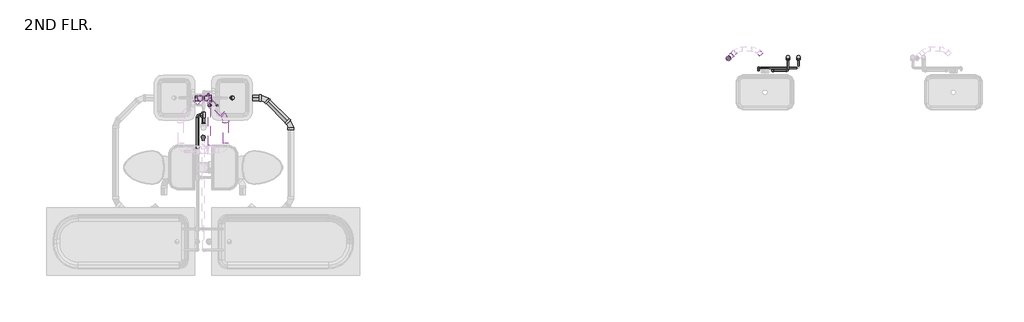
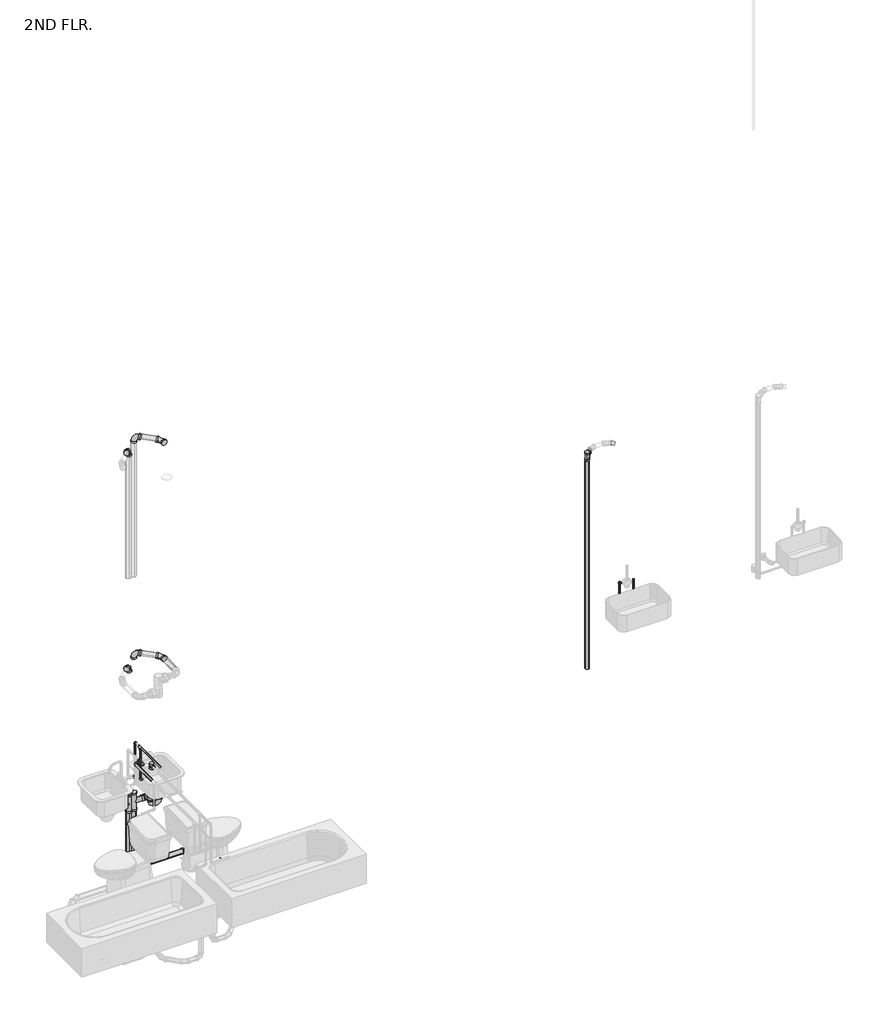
# One storey, part 8 of 15: 31 pipe fittings, 30 pipe segments.
"""IFC4 building model written with IfcOpenShell, lengths in millimetres."""

from ifc_helpers import new_model, si_unit, point, frame, frame_2d, origin, place, context, project, spatial, circle_curve, trimmed, segment, composite_curve, outline, extrude, transform, mapped, element, save
from components import bend_pvc_sch_40_dwv_standard_f2f5988a, bend_pvc_sch_40_dwv_standard_1eaeee76, bend_pvc_sch_40_dwv_standard_49f8c181, ges_wye_45_deg_reducing_pvc_sch_40_dwv_standard_31e91cc2, ges_wye_45_deg_reducing_pvc_sch_40_dwv_standard_a2c526eb, pipe_elbow_copper_k_aad62f2d, pipe_elbow_copper_k_a25a5501, pipe_elbow_copper_k_69a8f9be, pipe_tee_copper_k_7127fd44, pipe_tee_copper_k_ee363fbf, pipe_tee_copper_k_feafe2f1, pipe_tee_copper_k_60c871d1, pipe_transition_copper_k_859ff352, pipe_transition_copper_k_b4f16853, pipe_transition_copper_k_5cd7eb3f, pipe_transition_copper_k_4b29cc47, standard_73d07651, tee_sanitary_pvc_sch_40_dwv_standard_be04015c

model = new_model("IFC4")

# Units and contexts
model_context = context("Model", 3, world=origin())
ifc_project = project(units=[si_unit("LENGTHUNIT", "METRE", prefix="MILLI")], contexts=[model_context])

# Site, building, storey
site = spatial("IfcSite", under=ifc_project)
building = spatial("IfcBuilding", under=site)
storey = spatial("IfcBuildingStorey", under=building, Name="2ND FLR.", Elevation=2844.8)

# Pipe fittings
placement = place(None, origin())
bend_pvc_sch_40_dwv_standard_shape = bend_pvc_sch_40_dwv_standard_f2f5988a(model_context)
element("IfcPipeFitting", 1, ObjectType="Bend - PVC - Sch 40 - DWV : Standard", at=placement, inside=storey, context=model_context, shape_type="MappedRepresentation", body=[
    mapped(bend_pvc_sch_40_dwv_standard_shape, transform((2809.9937605, 8465.2676718, 2448.8904025), x_axis=(-0.707106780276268, 0.7071067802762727, 5.0741035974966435e-05), y_axis=(-0.7071067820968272, -0.7071067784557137, -5.074103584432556e-05), z_axis=(0.0, -7.17586611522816e-05, 0.9999999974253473))),
])
element("IfcPipeFitting", 2, ObjectType="Bend - PVC - Sch 40 - DWV : Standard", at=placement, inside=storey, context=model_context, shape_type="MappedRepresentation", body=[
    mapped(bend_pvc_sch_40_dwv_standard_shape, transform((3108.9116861, 8166.3497461, 2448.8689525), x_axis=(0.0, 1.0, 0.0), y_axis=(-0.9999999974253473, 0.0, 7.175866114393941e-05), z_axis=(7.175866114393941e-05, 0.0, 0.9999999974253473))),
])
element("IfcPipeFitting", 3, ObjectType="Bend - PVC - Sch 40 - DWV : Standard", at=placement, inside=storey, context=model_context, shape_type="MappedRepresentation", body=[
    mapped(bend_pvc_sch_40_dwv_standard_shape, transform((2372.3084875, 8244.3974343, 8127.995709), x_axis=(0.0, 0.9999999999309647, -1.1750347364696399e-05), y_axis=(-0.9999999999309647, 1.3807066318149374e-10, 1.175034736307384e-05), z_axis=(1.1750347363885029e-05, 1.175034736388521e-05, 0.9999999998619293))),
])
element("IfcPipeFitting", 4, ObjectType="Bend - PVC - Sch 40 - DWV : Standard", at=placement, inside=storey, context=model_context, shape_type="MappedRepresentation", body=[
    mapped(bend_pvc_sch_40_dwv_standard_shape, transform((2372.3084875, 8244.3974343, 5283.195709), x_axis=(0.0, 0.9999999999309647, -1.1750347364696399e-05), y_axis=(-0.9999999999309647, 1.3807066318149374e-10, 1.175034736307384e-05), z_axis=(1.1750347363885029e-05, 1.175034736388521e-05, 0.9999999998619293))),
])
bend_pvc_sch_40_dwv_standard_2_shape = bend_pvc_sch_40_dwv_standard_1eaeee76(model_context)
element("IfcPipeFitting", 5, ObjectType="Bend - PVC - Sch 40 - DWV : Standard", at=placement, inside=storey, context=model_context, shape_type="MappedRepresentation", body=[
    mapped(bend_pvc_sch_40_dwv_standard_2_shape, transform((2151.4347258, 8465.2676718, 2448.8904025), x_axis=(0.0, 0.0, -1.0), y_axis=(1.0, 0.0, 0.0), z_axis=(0.0, -1.0, 0.0))),
])
element("IfcPipeFitting", 6, ObjectType="Bend - PVC - Sch 40 - DWV : Standard", at=placement, inside=storey, context=model_context, shape_type="MappedRepresentation", body=[
    mapped(bend_pvc_sch_40_dwv_standard_2_shape, transform((2151.4348028, 8465.2711191, 8127.995709), x_axis=(0.0, 0.0, 1.0), y_axis=(0.7071067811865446, -0.7071067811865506, 0.0), z_axis=(0.7071067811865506, 0.7071067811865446, 0.0))),
])
element("IfcPipeFitting", 7, ObjectType="Bend - PVC - Sch 40 - DWV : Standard", at=placement, inside=storey, context=model_context, shape_type="MappedRepresentation", body=[
    mapped(bend_pvc_sch_40_dwv_standard_2_shape, transform((2151.4348028, 8465.2711191, 5283.195709), x_axis=(0.0, 0.0, 1.0), y_axis=(0.7071067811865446, -0.7071067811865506, 0.0), z_axis=(0.7071067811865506, 0.7071067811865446, 0.0))),
])
bend_pvc_sch_40_dwv_standard_3_shape = bend_pvc_sch_40_dwv_standard_49f8c181(model_context)
element("IfcPipeFitting", 8, ObjectType="Bend - PVC - Sch 40 - DWV : Standard", at=placement, inside=storey, context=model_context, shape_type="MappedRepresentation", body=[
    mapped(bend_pvc_sch_40_dwv_standard_3_shape, transform((2085.1822491, 8465.2975466, 2291.20951), x_axis=(0.0, 0.0, -1.0), y_axis=(1.0, 0.0, 0.0), z_axis=(0.0, -1.0, 0.0))),
])
element("IfcPipeFitting", 9, ObjectType="Bend - PVC - Sch 40 - DWV : Standard", at=placement, inside=storey, context=model_context, shape_type="MappedRepresentation", body=[
    mapped(bend_pvc_sch_40_dwv_standard_3_shape, transform((2085.2449931, 8465.2082981, 7975.5947608), x_axis=(0.0, 0.0, 1.0), y_axis=(0.7071067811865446, 0.7071067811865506, 0.0), z_axis=(-0.7071067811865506, 0.7071067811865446, 0.0))),
])
element("IfcPipeFitting", 10, ObjectType="Bend - PVC - Sch 40 - DWV : Standard", at=placement, inside=storey, context=model_context, shape_type="MappedRepresentation", body=[
    mapped(bend_pvc_sch_40_dwv_standard_3_shape, transform((2085.2449931, 8465.2082981, 5130.7947608), x_axis=(0.0, 0.0, 1.0), y_axis=(0.7071067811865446, 0.7071067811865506, 0.0), z_axis=(-0.7071067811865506, 0.7071067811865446, 0.0))),
])
ges_wye_45_deg_reducing_pvc_sch_40_dwv_standard_shape = ges_wye_45_deg_reducing_pvc_sch_40_dwv_standard_31e91cc2(model_context)
element("IfcPipeFitting", 11, ObjectType="GES Wye 45 Deg Reducing - PVC - Sch 40 - DWV : Standard", at=placement, inside=storey, context=model_context, shape_type="MappedRepresentation", body=[
    mapped(ges_wye_45_deg_reducing_pvc_sch_40_dwv_standard_shape, transform((2151.4347258, 8465.2710421, 3322.6721683), x_axis=(0.0, 0.0, 1.0), y_axis=(-1.0, 0.0, 0.0), z_axis=(0.0, -1.0, 0.0))),
])
ges_wye_45_deg_reducing_pvc_sch_40_dwv_standard_2_shape = ges_wye_45_deg_reducing_pvc_sch_40_dwv_standard_a2c526eb(model_context)
element("IfcPipeFitting", 12, ObjectType="GES Wye 45 Deg Reducing - PVC - Sch 40 - DWV : Standard", at=placement, inside=storey, context=model_context, shape_type="MappedRepresentation", body=[
    mapped(ges_wye_45_deg_reducing_pvc_sch_40_dwv_standard_2_shape, transform((2085.1822491, 8465.2710421, 3322.6721683), x_axis=(0.0, 0.0, 1.0), y_axis=(-1.0, 0.0, 0.0), z_axis=(0.0, -1.0, 0.0))),
])
pipe_elbow_copper_k_shape = pipe_elbow_copper_k_aad62f2d(model_context)
element("IfcPipeFitting", 13, ObjectType="Pipe Elbow : Copper- K", at=placement, inside=storey, context=model_context, shape_type="MappedRepresentation", body=[
    mapped(pipe_elbow_copper_k_shape, transform((2186.5709875, 8501.0968309, 4064.0), x_axis=(0.0, 1.0, 0.0), y_axis=(0.0, 0.0, -1.0), z_axis=(-1.0, 0.0, 0.0))),
])
element("IfcPipeFitting", 14, ObjectType="Pipe Elbow : Copper- K", at=placement, inside=storey, context=model_context, shape_type="MappedRepresentation", body=[
    mapped(pipe_elbow_copper_k_shape, transform((2186.5709875, 8501.0968309, 3606.8), x_axis=(0.0, 0.0, -1.0), y_axis=(-1.0, 0.0, 0.0), z_axis=(0.0, 1.0, 0.0))),
])
element("IfcPipeFitting", 15, ObjectType="Pipe Elbow : Copper- K", at=placement, inside=storey, context=model_context, shape_type="MappedRepresentation", body=[
    mapped(pipe_elbow_copper_k_shape, transform((2186.5709875, 8383.3740436, 3637.2601563), x_axis=(0.0, 0.0, -1.0), y_axis=(1.0, 0.0, 0.0), z_axis=(0.0, -1.0, 0.0))),
])
element("IfcPipeFitting", 16, ObjectType="Pipe Elbow : Copper- K", at=placement, inside=storey, context=model_context, shape_type="MappedRepresentation", body=[
    mapped(pipe_elbow_copper_k_shape, transform((8549.7163377, 8774.1278432, 3418.8796883), x_axis=(0.0, 0.0, -1.0), y_axis=(1.0, 0.0, 0.0), z_axis=(0.0, -1.0, 0.0))),
])
element("IfcPipeFitting", 17, ObjectType="Pipe Elbow : Copper- K", at=placement, inside=storey, context=model_context, shape_type="MappedRepresentation", body=[
    mapped(pipe_elbow_copper_k_shape, transform((8725.0084875, 8774.1278432, 3418.8796883), x_axis=(1.0, 0.0, 0.0), y_axis=(0.0, 1.0, 0.0), z_axis=(0.0, 0.0, 1.0))),
])
pipe_elbow_copper_k_2_shape = pipe_elbow_copper_k_a25a5501(model_context)
element("IfcPipeFitting", 18, ObjectType="Pipe Elbow : Copper- K", at=placement, inside=storey, context=model_context, shape_type="MappedRepresentation", body=[
    mapped(pipe_elbow_copper_k_2_shape, transform((2054.8084875, 8271.1092908, 3962.4), x_axis=(-1.0, 0.0, 0.0), y_axis=(0.0, -1.0, 0.0), z_axis=(0.0, 0.0, 1.0))),
])
pipe_elbow_copper_k_3_shape = pipe_elbow_copper_k_69a8f9be(model_context)
element("IfcPipeFitting", 19, ObjectType="Pipe Elbow : Copper- K", at=placement, inside=storey, context=model_context, shape_type="MappedRepresentation", body=[
    mapped(pipe_elbow_copper_k_3_shape, transform((8392.4641516, 8806.2157662, 3815.0601563), x_axis=(0.0, 0.0, 1.0), y_axis=(0.0, 1.0, 0.0), z_axis=(-1.0, 0.0, 0.0))),
])
pipe_tee_copper_k_shape = pipe_tee_copper_k_7127fd44(model_context)
element("IfcPipeFitting", 20, ObjectType="Pipe Tee : Copper- K", at=placement, inside=storey, context=model_context, shape_type="MappedRepresentation", body=[
    mapped(pipe_tee_copper_k_shape, transform((2118.3084875, 8021.1606631, 4064.0), x_axis=(0.0, 0.0, 1.0), y_axis=(0.0, 1.0, 0.0), z_axis=(-1.0, 0.0, 0.0))),
])
pipe_tee_copper_k_2_shape = pipe_tee_copper_k_ee363fbf(model_context)
element("IfcPipeFitting", 21, ObjectType="Pipe Tee : Copper- K", at=placement, inside=storey, context=model_context, shape_type="MappedRepresentation", body=[
    mapped(pipe_tee_copper_k_2_shape, transform((2186.5709875, 8383.3740436, 4064.0), x_axis=(0.0, -1.0, 0.0), y_axis=(0.0, 0.0, 1.0), z_axis=(-1.0, 0.0, 0.0))),
])
pipe_tee_copper_k_3_shape = pipe_tee_copper_k_feafe2f1(model_context)
element("IfcPipeFitting", 22, ObjectType="Pipe Tee : Copper- K", at=placement, inside=storey, context=model_context, shape_type="MappedRepresentation", body=[
    mapped(pipe_tee_copper_k_3_shape, transform((2121.4834875, 8271.1092908, 3962.4), x_axis=(0.0, -1.0, 0.0), y_axis=(1.0, 0.0, 0.0), z_axis=(0.0, 0.0, 1.0))),
])
pipe_tee_copper_k_4_shape = pipe_tee_copper_k_60c871d1(model_context)
element("IfcPipeFitting", 23, ObjectType="Pipe Tee : Copper- K", at=placement, inside=storey, context=model_context, shape_type="MappedRepresentation", body=[
    mapped(pipe_tee_copper_k_4_shape, transform((8725.0084875, 8927.8175381, 3418.8796883), x_axis=(0.0, 0.0, 1.0), y_axis=(0.0, 1.0, 0.0), z_axis=(-1.0, 0.0, 0.0))),
])
element("IfcPipeFitting", 24, ObjectType="Pipe Tee : Copper- K", at=placement, inside=storey, context=model_context, shape_type="MappedRepresentation", body=[
    mapped(pipe_tee_copper_k_4_shape, transform((8845.7410297, 8927.8175381, 3307.0601563), x_axis=(0.0, 0.0, 1.0), y_axis=(0.0, 1.0, 0.0), z_axis=(-1.0, 0.0, 0.0))),
])
pipe_transition_copper_k_shape = pipe_transition_copper_k_859ff352(model_context)
element("IfcPipeFitting", 25, ObjectType="Pipe Transition : Copper- K", at=placement, inside=storey, context=model_context, shape_type="MappedRepresentation", body=[
    mapped(pipe_transition_copper_k_shape, transform((2186.5709875, 8383.3740436, 4037.0125), x_axis=(0.0, 0.0, -1.0), y_axis=(0.0, 1.0, 0.0), z_axis=(1.0, 0.0, 0.0))),
])
element("IfcPipeFitting", 26, ObjectType="Pipe Transition : Copper- K", at=placement, inside=storey, context=model_context, shape_type="MappedRepresentation", body=[
    mapped(pipe_transition_copper_k_shape, transform((2186.5709875, 8410.3615436, 4064.0), x_axis=(0.0, 1.0, 0.0), y_axis=(-1.0, 0.0, 0.0), z_axis=(0.0, 0.0, 1.0))),
])
pipe_transition_copper_k_2_shape = pipe_transition_copper_k_b4f16853(model_context)
element("IfcPipeFitting", 27, ObjectType="Pipe Transition : Copper- K", at=placement, inside=storey, context=model_context, shape_type="MappedRepresentation", body=[
    mapped(pipe_transition_copper_k_2_shape, transform((2121.4834875, 8301.2717908, 3962.4), x_axis=(0.0, 1.0, 0.0), y_axis=(-1.0, 0.0, 0.0), z_axis=(0.0, 0.0, 1.0))),
])
pipe_transition_copper_k_3_shape = pipe_transition_copper_k_5cd7eb3f(model_context)
element("IfcPipeFitting", 28, ObjectType="Pipe Transition : Copper- K", at=placement, inside=storey, context=model_context, shape_type="MappedRepresentation", body=[
    mapped(pipe_transition_copper_k_3_shape, transform((2121.4834875, 8172.3382881, 3962.4), x_axis=(0.0, 1.0, 0.0), y_axis=(-1.0, 0.0, 0.0), z_axis=(0.0, 0.0, 1.0))),
])
pipe_transition_copper_k_4_shape = pipe_transition_copper_k_4b29cc47(model_context)
element("IfcPipeFitting", 29, ObjectType="Pipe Transition : Copper- K", at=placement, inside=storey, context=model_context, shape_type="MappedRepresentation", body=[
    mapped(pipe_transition_copper_k_4_shape, transform((8725.0084875, 8894.4800381, 3418.8796883), x_axis=(0.0, -1.0, 0.0), y_axis=(1.0, 0.0, 0.0), z_axis=(0.0, 0.0, 1.0))),
])
standard_shape = standard_73d07651(model_context)
element("IfcPipeFitting", 30, ObjectType="GES P TRAP PVC Sch 40 - DWV : Standard", at=placement, inside=storey, context=model_context, shape_type="MappedRepresentation", body=[
    mapped(standard_shape, transform((2471.2470106, 8465.2710421, 3322.6721683), x_axis=(0.0, 0.0, -1.0), y_axis=(-1.0, 0.0, 0.0), z_axis=(0.0, 1.0, 0.0))),
])
tee_sanitary_pvc_sch_40_dwv_standard_shape = tee_sanitary_pvc_sch_40_dwv_standard_be04015c(model_context)
element("IfcPipeFitting", 31, ObjectType="Tee Sanitary - PVC - Sch 40 - DWV : Standard", at=placement, inside=storey, context=model_context, shape_type="MappedRepresentation", body=[
    mapped(tee_sanitary_pvc_sch_40_dwv_standard_shape, transform((8054.0645565, 8912.2979631, 5532.1998234), x_axis=(0.0, 0.0, 1.0), y_axis=(-0.7098586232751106, -0.7043441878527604, 0.0), z_axis=(0.7043441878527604, -0.7098586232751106, 0.0))),
])

# Pipe segments
element("IfcPipeSegment", 32, ObjectType="Copper", at=placement, inside=storey, context=model_context, shape_type="SweptSolid", body=[
    extrude(outline(composite_curve([segment(trimmed(circle_curve(frame_2d((2186.5709875, 8501.0968309)), 7.9375), [point((2194.5084875, 8501.0968309))], [point((2186.5709875, 8493.1593309))], False, "CARTESIAN"), True, "CONTINUOUS"), segment(trimmed(circle_curve(frame_2d((2186.5709875, 8501.0968309)), 7.9375), [point((2186.5709875, 8493.1593309))], [point((2178.6334875, 8501.0968309))], False, "CARTESIAN"), True, "CONTINUOUS"), segment(trimmed(circle_curve(frame_2d((2186.5709875, 8501.0968309)), 7.9375), [point((2178.6334875, 8501.0968309))], [point((2186.5709875, 8509.0343309))], False, "CARTESIAN"), True, "CONTINUOUS"), segment(trimmed(circle_curve(frame_2d((2186.5709875, 8501.0968309)), 7.9375), [point((2186.5709875, 8509.0343309))], [point((2194.5084875, 8501.0968309))], False, "CARTESIAN"), True, "CONTINUOUS")], self_intersect=False)), frame((0.0, 0.0, 3624.2625), z_axis=(0.0, 0.0, 1.0), x_axis=(1.0, 0.0, 0.0)), (0.0, 0.0, 1.0), 422.275),
])
element("IfcPipeSegment", 33, ObjectType="Copper", at=placement, inside=storey, context=model_context, shape_type="SweptSolid", body=[
    extrude(outline(composite_curve([segment(trimmed(circle_curve(frame_2d((8383.3740436, 3637.2601562)), 7.9375), [point((8375.4365436, 3637.2601562))], [point((8383.3740436, 3645.1976562))], False, "CARTESIAN"), True, "CONTINUOUS"), segment(trimmed(circle_curve(frame_2d((8383.3740436, 3637.2601562)), 7.9375), [point((8383.3740436, 3645.1976562))], [point((8391.3115436, 3637.2601562))], False, "CARTESIAN"), True, "CONTINUOUS"), segment(trimmed(circle_curve(frame_2d((8383.3740436, 3637.2601562)), 7.9375), [point((8391.3115436, 3637.2601562))], [point((8383.3740436, 3629.3226562))], False, "CARTESIAN"), True, "CONTINUOUS"), segment(trimmed(circle_curve(frame_2d((8383.3740436, 3637.2601562)), 7.9375), [point((8383.3740436, 3629.3226562))], [point((8375.4365436, 3637.2601562))], False, "CARTESIAN"), True, "CONTINUOUS")], self_intersect=False)), frame((2204.0334875, 0.0, 0.0), z_axis=(1.0, 0.0, 0.0), x_axis=(0.0, 1.0, 0.0)), (0.0, 0.0, 1.0), 76.2),
])
element("IfcPipeSegment", 34, ObjectType="Copper", at=placement, inside=storey, context=model_context, shape_type="SweptSolid", body=[
    extrude(outline(composite_curve([segment(trimmed(circle_curve(frame_2d((2186.5709875, 8383.3740436)), 7.9375), [point((2194.5084875, 8383.3740436))], [point((2186.5709875, 8375.4365436))], False, "CARTESIAN"), True, "CONTINUOUS"), segment(trimmed(circle_curve(frame_2d((2186.5709875, 8383.3740436)), 7.9375), [point((2186.5709875, 8375.4365436))], [point((2178.6334875, 8383.3740436))], False, "CARTESIAN"), True, "CONTINUOUS"), segment(trimmed(circle_curve(frame_2d((2186.5709875, 8383.3740436)), 7.9375), [point((2178.6334875, 8383.3740436))], [point((2186.5709875, 8391.3115436))], False, "CARTESIAN"), True, "CONTINUOUS"), segment(trimmed(circle_curve(frame_2d((2186.5709875, 8383.3740436)), 7.9375), [point((2186.5709875, 8391.3115436))], [point((2194.5084875, 8383.3740436))], False, "CARTESIAN"), True, "CONTINUOUS")], self_intersect=False)), frame((0.0, 0.0, 3654.7226562), z_axis=(0.0, 0.0, 1.0), x_axis=(1.0, 0.0, 0.0)), (0.0, 0.0, 1.0), 376.7335937),
])
element("IfcPipeSegment", 35, ObjectType="Copper", at=placement, inside=storey, context=model_context, shape_type="SweptSolid", body=[
    extrude(outline(composite_curve([segment(trimmed(circle_curve(frame_2d((4064.0, 2186.5709875)), 11.1125), [point((4064.0, 2197.6834875))], [point((4075.1125, 2186.5709875))], False, "CARTESIAN"), True, "CONTINUOUS"), segment(trimmed(circle_curve(frame_2d((4064.0, 2186.5709875)), 11.1125), [point((4075.1125, 2186.5709875))], [point((4064.0, 2175.4584875))], False, "CARTESIAN"), True, "CONTINUOUS"), segment(trimmed(circle_curve(frame_2d((4064.0, 2186.5709875)), 11.1125), [point((4064.0, 2175.4584875))], [point((4052.8875, 2186.5709875))], False, "CARTESIAN"), True, "CONTINUOUS"), segment(trimmed(circle_curve(frame_2d((4064.0, 2186.5709875)), 11.1125), [point((4052.8875, 2186.5709875))], [point((4064.0, 2197.6834875))], False, "CARTESIAN"), True, "CONTINUOUS")], self_intersect=False)), frame((0.0, 7931.1843309, 0.0), z_axis=(0.0, 1.0, 0.0), x_axis=(0.0, 0.0, 1.0)), (0.0, 0.0, 1.0), 425.2022127),
])
element("IfcPipeSegment", 36, ObjectType="Copper", at=placement, inside=storey, context=model_context, shape_type="SweptSolid", body=[
    extrude(outline(composite_curve([segment(trimmed(circle_curve(frame_2d((8271.1092908, 3962.4)), 14.2875), [point((8285.3967908, 3962.4))], [point((8271.1092908, 3948.1125))], False, "CARTESIAN"), True, "CONTINUOUS"), segment(trimmed(circle_curve(frame_2d((8271.1092908, 3962.4)), 14.2875), [point((8271.1092908, 3948.1125))], [point((8256.8217908, 3962.4))], False, "CARTESIAN"), True, "CONTINUOUS"), segment(trimmed(circle_curve(frame_2d((8271.1092908, 3962.4)), 14.2875), [point((8256.8217908, 3962.4))], [point((8271.1092908, 3976.6875))], False, "CARTESIAN"), True, "CONTINUOUS"), segment(trimmed(circle_curve(frame_2d((8271.1092908, 3962.4)), 14.2875), [point((8271.1092908, 3976.6875))], [point((8285.3967908, 3962.4))], False, "CARTESIAN"), True, "CONTINUOUS")], self_intersect=False)), frame((2078.6209875, 0.0, 0.0), z_axis=(1.0, 0.0, 0.0), x_axis=(0.0, 1.0, 0.0)), (0.0, 0.0, 1.0), 12.7),
])
element("IfcPipeSegment", 37, ObjectType="Copper", at=placement, inside=storey, context=model_context, shape_type="SweptSolid", body=[
    extrude(outline(composite_curve([segment(trimmed(circle_curve(frame_2d((3962.4, 2121.4834875)), 14.2875), [point((3962.4, 2135.7709875))], [point((3976.6875, 2121.4834875))], False, "CARTESIAN"), True, "CONTINUOUS"), segment(trimmed(circle_curve(frame_2d((3962.4, 2121.4834875)), 14.2875), [point((3976.6875, 2121.4834875))], [point((3962.4, 2107.1959875))], False, "CARTESIAN"), True, "CONTINUOUS"), segment(trimmed(circle_curve(frame_2d((3962.4, 2121.4834875)), 14.2875), [point((3962.4, 2107.1959875))], [point((3948.1125, 2121.4834875))], False, "CARTESIAN"), True, "CONTINUOUS"), segment(trimmed(circle_curve(frame_2d((3962.4, 2121.4834875)), 14.2875), [point((3948.1125, 2121.4834875))], [point((3962.4, 2135.7709875))], False, "CARTESIAN"), True, "CONTINUOUS")], self_intersect=False)), frame((0.0, 8185.8320381, 0.0), z_axis=(0.0, 1.0, 0.0), x_axis=(0.0, 0.0, 1.0)), (0.0, 0.0, 1.0), 55.1147527),
])
element("IfcPipeSegment", 38, ObjectType="Copper", at=placement, inside=storey, context=model_context, shape_type="SweptSolid", body=[
    extrude(outline(composite_curve([segment(trimmed(circle_curve(frame_2d((3962.4, 2054.8084875)), 14.2875), [point((3962.4, 2040.5209875))], [point((3948.1125, 2054.8084875))], False, "CARTESIAN"), True, "CONTINUOUS"), segment(trimmed(circle_curve(frame_2d((3962.4, 2054.8084875)), 14.2875), [point((3948.1125, 2054.8084875))], [point((3962.4, 2069.0959875))], False, "CARTESIAN"), True, "CONTINUOUS"), segment(trimmed(circle_curve(frame_2d((3962.4, 2054.8084875)), 14.2875), [point((3962.4, 2069.0959875))], [point((3976.6875, 2054.8084875))], False, "CARTESIAN"), True, "CONTINUOUS"), segment(trimmed(circle_curve(frame_2d((3962.4, 2054.8084875)), 14.2875), [point((3976.6875, 2054.8084875))], [point((3962.4, 2040.5209875))], False, "CARTESIAN"), True, "CONTINUOUS")], self_intersect=False)), frame((0.0, 7889.5153944, 0.0), z_axis=(0.0, 1.0, 0.0), x_axis=(0.0, 0.0, 1.0)), (0.0, 0.0, 1.0), 357.7813964),
])
element("IfcPipeSegment", 39, ObjectType="Copper", at=placement, inside=storey, context=model_context, shape_type="SweptSolid", body=[
    extrude(outline(composite_curve([segment(trimmed(circle_curve(frame_2d((3815.0601563, 8392.4641516)), 7.9375), [point((3815.0601563, 8384.5266516))], [point((3807.1226563, 8392.4641516))], False, "CARTESIAN"), True, "CONTINUOUS"), segment(trimmed(circle_curve(frame_2d((3815.0601563, 8392.4641516)), 7.9375), [point((3807.1226563, 8392.4641516))], [point((3815.0601563, 8400.4016516))], False, "CARTESIAN"), True, "CONTINUOUS"), segment(trimmed(circle_curve(frame_2d((3815.0601563, 8392.4641516)), 7.9375), [point((3815.0601563, 8400.4016516))], [point((3822.9976563, 8392.4641516))], False, "CARTESIAN"), True, "CONTINUOUS"), segment(trimmed(circle_curve(frame_2d((3815.0601563, 8392.4641516)), 7.9375), [point((3822.9976563, 8392.4641516))], [point((3815.0601563, 8384.5266516))], False, "CARTESIAN"), True, "CONTINUOUS")], self_intersect=False)), frame((0.0, 8771.4354504, 0.0), z_axis=(0.0, 1.0, 0.0), x_axis=(0.0, 0.0, 1.0)), (0.0, 0.0, 1.0), 17.3178158),
])
element("IfcPipeSegment", 40, ObjectType="Copper", at=placement, inside=storey, context=model_context, shape_type="SweptSolid", body=[
    extrude(outline(composite_curve([segment(trimmed(circle_curve(frame_2d((8774.1278432, 3418.8796883)), 7.9375), [point((8766.1903432, 3418.8796883))], [point((8774.1278432, 3426.8171883))], False, "CARTESIAN"), True, "CONTINUOUS"), segment(trimmed(circle_curve(frame_2d((8774.1278432, 3418.8796883)), 7.9375), [point((8774.1278432, 3426.8171883))], [point((8782.0653432, 3418.8796883))], False, "CARTESIAN"), True, "CONTINUOUS"), segment(trimmed(circle_curve(frame_2d((8774.1278432, 3418.8796883)), 7.9375), [point((8782.0653432, 3418.8796883))], [point((8774.1278432, 3410.9421883))], False, "CARTESIAN"), True, "CONTINUOUS"), segment(trimmed(circle_curve(frame_2d((8774.1278432, 3418.8796883)), 7.9375), [point((8774.1278432, 3410.9421883))], [point((8766.1903432, 3418.8796883))], False, "CARTESIAN"), True, "CONTINUOUS")], self_intersect=False)), frame((8567.1788377, 0.0, 0.0), z_axis=(1.0, 0.0, 0.0), x_axis=(0.0, 1.0, 0.0)), (0.0, 0.0, 1.0), 140.3671497),
])
element("IfcPipeSegment", 41, ObjectType="Copper", at=placement, inside=storey, context=model_context, shape_type="SweptSolid", body=[
    extrude(outline(composite_curve([segment(trimmed(circle_curve(frame_2d((8549.7163377, 8774.1278432)), 7.9375), [point((8541.7788377, 8774.1278432))], [point((8549.7163377, 8782.0653432))], False, "CARTESIAN"), True, "CONTINUOUS"), segment(trimmed(circle_curve(frame_2d((8549.7163377, 8774.1278432)), 7.9375), [point((8549.7163377, 8782.0653432))], [point((8557.6538377, 8774.1278432))], False, "CARTESIAN"), True, "CONTINUOUS"), segment(trimmed(circle_curve(frame_2d((8549.7163377, 8774.1278432)), 7.9375), [point((8557.6538377, 8774.1278432))], [point((8549.7163377, 8766.1903432))], False, "CARTESIAN"), True, "CONTINUOUS"), segment(trimmed(circle_curve(frame_2d((8549.7163377, 8774.1278432)), 7.9375), [point((8549.7163377, 8766.1903432))], [point((8541.7788377, 8774.1278432))], False, "CARTESIAN"), True, "CONTINUOUS")], self_intersect=False)), frame((0.0, 0.0, 3436.3421883), z_axis=(0.0, 0.0, 1.0), x_axis=(1.0, 0.0, 0.0)), (0.0, 0.0, 1.0), 378.7179679),
])
element("IfcPipeSegment", 42, ObjectType="Copper", at=placement, inside=storey, context=model_context, shape_type="SweptSolid", body=[
    extrude(outline(composite_curve([segment(trimmed(circle_curve(frame_2d((8806.2157662, 3307.0601563)), 7.9375), [point((8798.2782662, 3307.0601563))], [point((8806.2157662, 3314.9976563))], False, "CARTESIAN"), True, "CONTINUOUS"), segment(trimmed(circle_curve(frame_2d((8806.2157662, 3307.0601563)), 7.9375), [point((8806.2157662, 3314.9976563))], [point((8814.1532662, 3307.0601563))], False, "CARTESIAN"), True, "CONTINUOUS"), segment(trimmed(circle_curve(frame_2d((8806.2157662, 3307.0601563)), 7.9375), [point((8814.1532662, 3307.0601563))], [point((8806.2157662, 3299.1226563))], False, "CARTESIAN"), True, "CONTINUOUS"), segment(trimmed(circle_curve(frame_2d((8806.2157662, 3307.0601563)), 7.9375), [point((8806.2157662, 3299.1226563))], [point((8798.2782662, 3307.0601563))], False, "CARTESIAN"), True, "CONTINUOUS")], self_intersect=False)), frame((8409.9266516, 0.0, 0.0), z_axis=(1.0, 0.0, 0.0), x_axis=(0.0, 1.0, 0.0)), (0.0, 0.0, 1.0), 418.351878),
])
element("IfcPipeSegment", 43, ObjectType="Copper", at=placement, inside=storey, context=model_context, shape_type="SweptSolid", body=[
    extrude(outline(composite_curve([segment(trimmed(circle_curve(frame_2d((8392.4641516, 8806.2157662)), 7.9375), [point((8384.5266516, 8806.2157662))], [point((8392.4641516, 8814.1532662))], False, "CARTESIAN"), True, "CONTINUOUS"), segment(trimmed(circle_curve(frame_2d((8392.4641516, 8806.2157662)), 7.9375), [point((8392.4641516, 8814.1532662))], [point((8400.4016516, 8806.2157662))], False, "CARTESIAN"), True, "CONTINUOUS"), segment(trimmed(circle_curve(frame_2d((8392.4641516, 8806.2157662)), 7.9375), [point((8400.4016516, 8806.2157662))], [point((8392.4641516, 8798.2782662))], False, "CARTESIAN"), True, "CONTINUOUS"), segment(trimmed(circle_curve(frame_2d((8392.4641516, 8806.2157662)), 7.9375), [point((8392.4641516, 8798.2782662))], [point((8384.5266516, 8806.2157662))], False, "CARTESIAN"), True, "CONTINUOUS")], self_intersect=False)), frame((0.0, 0.0, 3324.5226563), z_axis=(0.0, 0.0, 1.0), x_axis=(1.0, 0.0, 0.0)), (0.0, 0.0, 1.0), 473.075),
])
element("IfcPipeSegment", 44, ObjectType="Copper", at=placement, inside=storey, context=model_context, shape_type="SweptSolid", body=[
    extrude(outline(composite_curve([segment(trimmed(circle_curve(frame_2d((3418.8796883, 8725.0084875)), 7.9375), [point((3418.8796883, 8717.0709875))], [point((3410.9421883, 8725.0084875))], False, "CARTESIAN"), True, "CONTINUOUS"), segment(trimmed(circle_curve(frame_2d((3418.8796883, 8725.0084875)), 7.9375), [point((3410.9421883, 8725.0084875))], [point((3418.8796883, 8732.9459875))], False, "CARTESIAN"), True, "CONTINUOUS"), segment(trimmed(circle_curve(frame_2d((3418.8796883, 8725.0084875)), 7.9375), [point((3418.8796883, 8732.9459875))], [point((3426.8171883, 8725.0084875))], False, "CARTESIAN"), True, "CONTINUOUS"), segment(trimmed(circle_curve(frame_2d((3418.8796883, 8725.0084875)), 7.9375), [point((3426.8171883, 8725.0084875))], [point((3418.8796883, 8717.0709875))], False, "CARTESIAN"), True, "CONTINUOUS")], self_intersect=False)), frame((0.0, 8791.5903432, 0.0), z_axis=(0.0, 1.0, 0.0), x_axis=(0.0, 0.0, 1.0)), (0.0, 0.0, 1.0), 94.1584448),
])
element("IfcPipeSegment", 45, ObjectType="Copper", at=placement, inside=storey, context=model_context, shape_type="SweptSolid", body=[
    extrude(outline(composite_curve([segment(trimmed(circle_curve(frame_2d((3307.0601563, 8845.7410297)), 7.9375), [point((3307.0601563, 8837.8035297))], [point((3299.1226563, 8845.7410297))], False, "CARTESIAN"), True, "CONTINUOUS"), segment(trimmed(circle_curve(frame_2d((3307.0601563, 8845.7410297)), 7.9375), [point((3299.1226563, 8845.7410297))], [point((3307.0601563, 8853.6785297))], False, "CARTESIAN"), True, "CONTINUOUS"), segment(trimmed(circle_curve(frame_2d((3307.0601563, 8845.7410297)), 7.9375), [point((3307.0601563, 8853.6785297))], [point((3314.9976563, 8845.7410297))], False, "CARTESIAN"), True, "CONTINUOUS"), segment(trimmed(circle_curve(frame_2d((3307.0601563, 8845.7410297)), 7.9375), [point((3314.9976563, 8845.7410297))], [point((3307.0601563, 8837.8035297))], False, "CARTESIAN"), True, "CONTINUOUS")], self_intersect=False)), frame((0.0, 8823.6782662, 0.0), z_axis=(0.0, 1.0, 0.0), x_axis=(0.0, 0.0, 1.0)), (0.0, 0.0, 1.0), 62.0705218),
])
element("IfcPipeSegment", 46, ObjectType="PVC - SAN/STORM", at=placement, inside=storey, context=model_context, shape_type="SweptSolid", body=[
    extrude(outline(composite_curve([segment(trimmed(circle_curve(frame_2d((0.0, 24.13)), 24.13), [point((24.1293456, 24.3077101))], [point((0.1777101, 0.0006544))], False, "CARTESIAN"), True, "CONTINUOUS"), segment(trimmed(circle_curve(frame_2d((0.0, 24.13)), 24.13), [point((0.1777101, 0.0006544))], [point((-24.1293456, 23.9522899))], False, "CARTESIAN"), True, "CONTINUOUS"), segment(trimmed(circle_curve(frame_2d((0.0, 24.13)), 24.13), [point((-24.1293456, 23.9522899))], [point((-0.1777101, 48.2593456))], False, "CARTESIAN"), True, "CONTINUOUS"), segment(trimmed(circle_curve(frame_2d((0.0, 24.13)), 24.13), [point((-0.1777101, 48.2593456))], [point((24.1293456, 24.3077101))], False, "CARTESIAN"), True, "CONTINUOUS")], self_intersect=False)), frame((8423.7663086, 8955.0299972, 5552.0111102), z_axis=(-0.7070684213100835, 0.7071067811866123, 0.007365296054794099), x_axis=(0.7071451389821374, 0.7070300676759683, 0.007364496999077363)), (0.0, 0.0, 1.0), 42.2395422),
])
element("IfcPipeSegment", 47, ObjectType="PVC - SAN/STORM", at=placement, inside=storey, context=model_context, shape_type="SweptSolid", body=[
    extrude(outline(composite_curve([segment(trimmed(circle_curve(frame_2d((0.0, 24.13)), 24.13), [point((-24.128658, 24.3844918))], [point((0.2544917, 48.258658))], False, "CARTESIAN"), True, "CONTINUOUS"), segment(trimmed(circle_curve(frame_2d((0.0, 24.13)), 24.13), [point((0.2544917, 48.258658))], [point((24.128658, 23.8755083))], False, "CARTESIAN"), True, "CONTINUOUS"), segment(trimmed(circle_curve(frame_2d((0.0, 24.13)), 24.13), [point((24.128658, 23.8755083))], [point((-0.2544917, 0.0013421))], False, "CARTESIAN"), True, "CONTINUOUS"), segment(trimmed(circle_curve(frame_2d((0.0, 24.13)), 24.13), [point((-0.2544917, 0.0013421))], [point((-24.128658, 24.3844918))], False, "CARTESIAN"), True, "CONTINUOUS")], self_intersect=False)), frame((8127.6161113, 8984.9196327, 5506.9880672), z_axis=(-0.7098197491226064, -0.7043056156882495, 0.010465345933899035), x_axis=(0.7043833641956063, -0.7097414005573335, 0.010546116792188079)), (0.0, 0.0, 1.0), 41.7202458),
])
element("IfcPipeSegment", 48, ObjectType="PVC - SAN/STORM", at=placement, inside=storey, context=model_context, shape_type="SweptSolid", body=[
    extrude(outline(composite_curve([segment(trimmed(circle_curve(frame_2d((8054.0645565, 8912.2979631)), 24.13), [point((8078.1945565, 8912.2979631))], [point((8054.0645565, 8888.1679631))], False, "CARTESIAN"), True, "CONTINUOUS"), segment(trimmed(circle_curve(frame_2d((8054.0645565, 8912.2979631)), 24.13), [point((8054.0645565, 8888.1679631))], [point((8029.9345565, 8912.2979631))], False, "CARTESIAN"), True, "CONTINUOUS"), segment(trimmed(circle_curve(frame_2d((8054.0645565, 8912.2979631)), 24.13), [point((8029.9345565, 8912.2979631))], [point((8054.0645565, 8936.4279631))], False, "CARTESIAN"), True, "CONTINUOUS"), segment(trimmed(circle_curve(frame_2d((8054.0645565, 8912.2979631)), 24.13), [point((8054.0645565, 8936.4279631))], [point((8078.1945565, 8912.2979631))], False, "CARTESIAN"), True, "CONTINUOUS")], self_intersect=False)), frame((0.0, 0.0, 2732.6657899), z_axis=(0.0, 0.0, 1.0), x_axis=(1.0, 0.0, 0.0)), (0.0, 0.0, 1.0), 2737.6342335),
])
element("IfcPipeSegment", 49, ObjectType="PVC - SAN/STORM", at=placement, inside=storey, context=model_context, shape_type="SweptSolid", body=[
    extrude(outline(composite_curve([segment(trimmed(circle_curve(frame_2d((2471.2470106, 8465.2710421)), 30.1625), [point((2441.0845106, 8465.2710421))], [point((2471.2470106, 8495.4335421))], False, "CARTESIAN"), True, "CONTINUOUS"), segment(trimmed(circle_curve(frame_2d((2471.2470106, 8465.2710421)), 30.1625), [point((2471.2470106, 8495.4335421))], [point((2501.4095106, 8465.2710421))], False, "CARTESIAN"), True, "CONTINUOUS"), segment(trimmed(circle_curve(frame_2d((2471.2470106, 8465.2710421)), 30.1625), [point((2501.4095106, 8465.2710421))], [point((2471.2470106, 8435.1085421))], False, "CARTESIAN"), True, "CONTINUOUS"), segment(trimmed(circle_curve(frame_2d((2471.2470106, 8465.2710421)), 30.1625), [point((2471.2470106, 8435.1085421))], [point((2441.0845106, 8465.2710421))], False, "CARTESIAN"), True, "CONTINUOUS")], self_intersect=False)), frame((0.0, 0.0, 3275.0471683), z_axis=(0.0, 0.0, 1.0), x_axis=(1.0, 0.0, 0.0)), (0.0, 0.0, 1.0), 143.9539175),
])
element("IfcPipeSegment", 50, ObjectType="PVC - SAN/STORM", at=placement, inside=storey, context=model_context, shape_type="SweptSolid", body=[
    extrude(outline(composite_curve([segment(trimmed(circle_curve(frame_2d((8465.2710421, 3322.6721683)), 30.1625), [point((8495.4335421, 3322.6721683))], [point((8465.2710421, 3292.5096683))], False, "CARTESIAN"), True, "CONTINUOUS"), segment(trimmed(circle_curve(frame_2d((8465.2710421, 3322.6721683)), 30.1625), [point((8465.2710421, 3292.5096683))], [point((8435.1085421, 3322.6721683))], False, "CARTESIAN"), True, "CONTINUOUS"), segment(trimmed(circle_curve(frame_2d((8465.2710421, 3322.6721683)), 30.1625), [point((8435.1085421, 3322.6721683))], [point((8465.2710421, 3352.8346683))], False, "CARTESIAN"), True, "CONTINUOUS"), segment(trimmed(circle_curve(frame_2d((8465.2710421, 3322.6721683)), 30.1625), [point((8465.2710421, 3352.8346683))], [point((8495.4335421, 3322.6721683))], False, "CARTESIAN"), True, "CONTINUOUS")], self_intersect=False)), frame((2264.6830071, 0.0, 0.0), z_axis=(1.0, 0.0, 0.0), x_axis=(0.0, 1.0, 0.0)), (0.0, 0.0, 1.0), 14.4765036),
])
element("IfcPipeSegment", 51, ObjectType="PVC - SAN/STORM", at=placement, inside=storey, context=model_context, shape_type="SweptSolid", body=[
    extrude(outline(composite_curve([segment(trimmed(circle_curve(frame_2d((2471.2470106, 8465.2710421)), 30.1625), [point((2441.0845106, 8465.2710421))], [point((2471.2470106, 8495.4335421))], False, "CARTESIAN"), True, "CONTINUOUS"), segment(trimmed(circle_curve(frame_2d((2471.2470106, 8465.2710421)), 30.1625), [point((2471.2470106, 8495.4335421))], [point((2501.4095106, 8465.2710421))], False, "CARTESIAN"), True, "CONTINUOUS"), segment(trimmed(circle_curve(frame_2d((2471.2470106, 8465.2710421)), 30.1625), [point((2501.4095106, 8465.2710421))], [point((2471.2470106, 8435.1085421))], False, "CARTESIAN"), True, "CONTINUOUS"), segment(trimmed(circle_curve(frame_2d((2471.2470106, 8465.2710421)), 30.1625), [point((2471.2470106, 8435.1085421))], [point((2441.0845106, 8465.2710421))], False, "CARTESIAN"), True, "CONTINUOUS")], self_intersect=False)), frame((0.0, 0.0, 3275.0471683), z_axis=(0.0, 0.0, 1.0), x_axis=(1.0, 0.0, 0.0)), (0.0, 0.0, 1.0), 143.9539175),
])
element("IfcPipeSegment", 52, ObjectType="PVC - SAN/STORM", at=placement, inside=storey, context=model_context, shape_type="SweptSolid", body=[
    extrude(outline(composite_curve([segment(trimmed(circle_curve(frame_2d((0.0, -30.1625)), 30.1625), [point((-30.1625, -30.1625))], [point((0.0, 0.0))], False, "CARTESIAN"), True, "CONTINUOUS"), segment(trimmed(circle_curve(frame_2d((0.0, -30.1625)), 30.1625), [point((0.0, 0.0))], [point((30.1625, -30.1625))], False, "CARTESIAN"), True, "CONTINUOUS"), segment(trimmed(circle_curve(frame_2d((0.0, -30.1625)), 30.1625), [point((30.1625, -30.1625))], [point((0.0, -60.325))], False, "CARTESIAN"), True, "CONTINUOUS"), segment(trimmed(circle_curve(frame_2d((0.0, -30.1625)), 30.1625), [point((0.0, -60.325))], [point((-30.1625, -30.1625))], False, "CARTESIAN"), True, "CONTINUOUS")], self_intersect=False)), frame((2151.4347258, 8435.1051718, 2526.6907526), z_axis=(0.0, 4.975628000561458e-06, 0.9999999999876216), x_axis=(-1.0, 0.0, 0.0)), (0.0, 0.0, 1.0), 677.3556283),
])
element("IfcPipeSegment", 53, ObjectType="PVC - SAN/STORM", at=placement, inside=storey, context=model_context, shape_type="SweptSolid", body=[
    extrude(outline(composite_curve([segment(trimmed(circle_curve(frame_2d((8465.2676718, 2448.8904025)), 30.1625), [point((8435.1051718, 2448.8904025))], [point((8465.2676718, 2479.0529025))], False, "CARTESIAN"), True, "CONTINUOUS"), segment(trimmed(circle_curve(frame_2d((8465.2676718, 2448.8904025)), 30.1625), [point((8465.2676718, 2479.0529025))], [point((8495.4301718, 2448.8904025))], False, "CARTESIAN"), True, "CONTINUOUS"), segment(trimmed(circle_curve(frame_2d((8465.2676718, 2448.8904025)), 30.1625), [point((8495.4301718, 2448.8904025))], [point((8465.2676718, 2418.7279025))], False, "CARTESIAN"), True, "CONTINUOUS"), segment(trimmed(circle_curve(frame_2d((8465.2676718, 2448.8904025)), 30.1625), [point((8465.2676718, 2418.7279025))], [point((8435.1051718, 2448.8904025))], False, "CARTESIAN"), True, "CONTINUOUS")], self_intersect=False)), frame((2229.2349258, 0.0, 0.0), z_axis=(1.0, 0.0, 0.0), x_axis=(0.0, 1.0, 0.0)), (0.0, 0.0, 1.0), 523.6088347),
])
element("IfcPipeSegment", 54, ObjectType="PVC - SAN/STORM", at=placement, inside=storey, context=model_context, shape_type="SweptSolid", body=[
    extrude(outline(composite_curve([segment(trimmed(circle_curve(frame_2d((-1e-07, -30.1625)), 30.1625), [point((-30.1625, -30.1640305))], [point((-0.0015305, 0.0))], False, "CARTESIAN"), True, "CONTINUOUS"), segment(trimmed(circle_curve(frame_2d((-1e-07, -30.1625)), 30.1625), [point((-0.0015305, 0.0))], [point((30.1624999, -30.1609695))], False, "CARTESIAN"), True, "CONTINUOUS"), segment(trimmed(circle_curve(frame_2d((-1e-07, -30.1625)), 30.1625), [point((30.1624999, -30.1609695))], [point((0.0015304, -60.3249999))], False, "CARTESIAN"), True, "CONTINUOUS"), segment(trimmed(circle_curve(frame_2d((-1e-07, -30.1625)), 30.1625), [point((0.0015304, -60.3249999))], [point((-30.1625, -30.1640305))], False, "CARTESIAN"), True, "CONTINUOUS")], self_intersect=False)), frame((3068.5005336, 8206.7630631, 2418.7093525), z_axis=(-0.7071067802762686, 0.7071067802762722, 5.074103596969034e-05), x_axis=(0.7071067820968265, 0.7071067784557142, 5.07410358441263e-05)), (0.0, 0.0, 1.0), 308.433785),
])
element("IfcPipeSegment", 55, ObjectType="PVC - SAN/STORM", at=placement, inside=storey, context=model_context, shape_type="SweptSolid", body=[
    extrude(outline(composite_curve([segment(trimmed(circle_curve(frame_2d((5283.1963805, 2372.3084875)), 30.1625), [point((5283.1963805, 2342.1459875))], [point((5253.0338805, 2372.3084875))], False, "CARTESIAN"), True, "CONTINUOUS"), segment(trimmed(circle_curve(frame_2d((5283.1963805, 2372.3084875)), 30.1625), [point((5253.0338805, 2372.3084875))], [point((5283.1963805, 2402.4709875))], False, "CARTESIAN"), True, "CONTINUOUS"), segment(trimmed(circle_curve(frame_2d((5283.1963805, 2372.3084875)), 30.1625), [point((5283.1963805, 2402.4709875))], [point((5313.3588805, 2372.3084875))], False, "CARTESIAN"), True, "CONTINUOUS"), segment(trimmed(circle_curve(frame_2d((5283.1963805, 2372.3084875)), 30.1625), [point((5313.3588805, 2372.3084875))], [point((5283.1963805, 2342.1459875))], False, "CARTESIAN"), True, "CONTINUOUS")], self_intersect=False)), frame((0.0, 7954.6889644, 0.0), z_axis=(0.0, 1.0, 0.0), x_axis=(0.0, 0.0, 1.0)), (0.0, 0.0, 1.0), 232.5584699),
])
element("IfcPipeSegment", 56, ObjectType="PVC - SAN/STORM", at=placement, inside=storey, context=model_context, shape_type="SweptSolid", body=[
    extrude(outline(composite_curve([segment(trimmed(circle_curve(frame_2d((0.0, -30.1624999)), 30.1625), [point((-30.1625, -30.1624999))], [point((0.0, 0.0))], False, "CARTESIAN"), True, "CONTINUOUS"), segment(trimmed(circle_curve(frame_2d((0.0, -30.1624999)), 30.1625), [point((0.0, 0.0))], [point((30.1625, -30.1624999))], False, "CARTESIAN"), True, "CONTINUOUS"), segment(trimmed(circle_curve(frame_2d((0.0, -30.1624999)), 30.1625), [point((30.1625, -30.1624999))], [point((0.0, -60.3249999))], False, "CARTESIAN"), True, "CONTINUOUS"), segment(trimmed(circle_curve(frame_2d((0.0, -30.1624999)), 30.1625), [point((0.0, -60.3249999))], [point((-30.1625, -30.1624999))], False, "CARTESIAN"), True, "CONTINUOUS")], self_intersect=False)), frame((2085.1822491, 8435.1350467, 2369.0087526), z_axis=(0.0, -3.1740574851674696e-05, 0.9999999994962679), x_axis=(-1.0, 0.0, 0.0)), (0.0, 0.0, 1.0), 835.0365212),
])
element("IfcPipeSegment", 57, ObjectType="PVC - SAN/STORM", at=placement, inside=storey, context=model_context, shape_type="SweptSolid", body=[
    extrude(outline(composite_curve([segment(trimmed(circle_curve(frame_2d((0.0, 30.1625)), 30.1625), [point((-30.1625, 30.1625))], [point((0.0, 60.325))], False, "CARTESIAN"), True, "CONTINUOUS"), segment(trimmed(circle_curve(frame_2d((0.0, 30.1625)), 30.1625), [point((0.0, 60.325))], [point((30.1625, 30.1625))], False, "CARTESIAN"), True, "CONTINUOUS"), segment(trimmed(circle_curve(frame_2d((0.0, 30.1625)), 30.1625), [point((30.1625, 30.1625))], [point((0.0, 0.0))], False, "CARTESIAN"), True, "CONTINUOUS"), segment(trimmed(circle_curve(frame_2d((0.0, 30.1625)), 30.1625), [point((0.0, 0.0))], [point((-30.1625, 30.1625))], False, "CARTESIAN"), True, "CONTINUOUS")], self_intersect=False)), frame((2151.4347258, 8435.1085421, 6286.0981071), z_axis=(4.3621934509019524e-08, 4.3621944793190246e-08, 0.9999999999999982), x_axis=(0.9999999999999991, 0.0, -4.362193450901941e-08)), (0.0, 0.0, 1.0), 1764.0974032),
])
element("IfcPipeSegment", 58, ObjectType="PVC - SAN/STORM", at=placement, inside=storey, context=model_context, shape_type="SweptSolid", body=[
    extrude(outline(composite_curve([segment(trimmed(circle_curve(frame_2d((0.0, -30.1625)), 30.1625), [point((-30.1625, -30.1625))], [point((0.0, 0.0))], False, "CARTESIAN"), True, "CONTINUOUS"), segment(trimmed(circle_curve(frame_2d((0.0, -30.1625)), 30.1625), [point((0.0, 0.0))], [point((30.1625, -30.1625))], False, "CARTESIAN"), True, "CONTINUOUS"), segment(trimmed(circle_curve(frame_2d((0.0, -30.1625)), 30.1625), [point((30.1625, -30.1625))], [point((0.0, -60.325))], False, "CARTESIAN"), True, "CONTINUOUS"), segment(trimmed(circle_curve(frame_2d((0.0, -30.1625)), 30.1625), [point((0.0, -60.325))], [point((-30.1625, -30.1625))], False, "CARTESIAN"), True, "CONTINUOUS")], self_intersect=False)), frame((2331.8973349, 8284.8085869, 8097.833209), z_axis=(-0.7071067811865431, 0.707106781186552, 0.0), x_axis=(0.707106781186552, 0.7071067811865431, 0.0)), (0.0, 0.0, 1.0), 177.4123605),
])
element("IfcPipeSegment", 59, ObjectType="PVC - SAN/STORM", at=placement, inside=storey, context=model_context, shape_type="SweptSolid", body=[
    extrude(outline(composite_curve([segment(trimmed(circle_curve(frame_2d((2085.1822491, 8465.303363)), 30.1625), [point((2055.0197491, 8465.303363))], [point((2085.1822491, 8495.465863))], False, "CARTESIAN"), True, "CONTINUOUS"), segment(trimmed(circle_curve(frame_2d((2085.1822491, 8465.303363)), 30.1625), [point((2085.1822491, 8495.465863))], [point((2115.3447491, 8465.303363))], False, "CARTESIAN"), True, "CONTINUOUS"), segment(trimmed(circle_curve(frame_2d((2085.1822491, 8465.303363)), 30.1625), [point((2115.3447491, 8465.303363))], [point((2085.1822491, 8435.140863))], False, "CARTESIAN"), True, "CONTINUOUS"), segment(trimmed(circle_curve(frame_2d((2085.1822491, 8465.303363)), 30.1625), [point((2085.1822491, 8435.140863))], [point((2055.0197491, 8465.303363))], False, "CARTESIAN"), True, "CONTINUOUS")], self_intersect=False)), frame((0.0, 0.0, 6286.0981058), z_axis=(0.0, 0.0, 1.0), x_axis=(1.0, 0.0, 0.0)), (0.0, 0.0, 1.0), 1611.696455),
])
element("IfcPipeSegment", 60, ObjectType="PVC - SAN/STORM", at=placement, inside=storey, context=model_context, shape_type="SweptSolid", body=[
    extrude(outline(composite_curve([segment(trimmed(circle_curve(frame_2d((0.0, -30.1625)), 30.1625), [point((-30.1625, -30.1625))], [point((0.0, 0.0))], False, "CARTESIAN"), True, "CONTINUOUS"), segment(trimmed(circle_curve(frame_2d((0.0, -30.1625)), 30.1625), [point((0.0, 0.0))], [point((30.1625, -30.1625))], False, "CARTESIAN"), True, "CONTINUOUS"), segment(trimmed(circle_curve(frame_2d((0.0, -30.1625)), 30.1625), [point((30.1625, -30.1625))], [point((0.0, -60.325))], False, "CARTESIAN"), True, "CONTINUOUS"), segment(trimmed(circle_curve(frame_2d((0.0, -30.1625)), 30.1625), [point((0.0, -60.325))], [point((-30.1625, -30.1625))], False, "CARTESIAN"), True, "CONTINUOUS")], self_intersect=False)), frame((2331.8973349, 8284.8085869, 5253.033209), z_axis=(-0.7071067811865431, 0.707106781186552, 0.0), x_axis=(0.707106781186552, 0.7071067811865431, 0.0)), (0.0, 0.0, 1.0), 177.4123605),
])
element("IfcPipeSegment", 61, ObjectType="PVC - SAN/STORM", at=placement, inside=storey, context=model_context, shape_type="SweptSolid", body=[
    extrude(outline(composite_curve([segment(trimmed(circle_curve(frame_2d((0.0, -30.1625)), 30.1625), [point((0.0, 0.0))], [point((30.1625, -30.1625))], False, "CARTESIAN"), True, "CONTINUOUS"), segment(trimmed(circle_curve(frame_2d((0.0, -30.1625)), 30.1625), [point((30.1625, -30.1625))], [point((0.0, -60.325))], False, "CARTESIAN"), True, "CONTINUOUS"), segment(trimmed(circle_curve(frame_2d((0.0, -30.1625)), 30.1625), [point((0.0, -60.325))], [point((-30.1625, -30.1625))], False, "CARTESIAN"), True, "CONTINUOUS"), segment(trimmed(circle_curve(frame_2d((0.0, -30.1625)), 30.1625), [point((-30.1625, -30.1625))], [point((0.0, 0.0))], False, "CARTESIAN"), True, "CONTINUOUS")], self_intersect=False)), frame((2342.1459875, 7954.6889644, 5283.1963805), z_axis=(1.0375419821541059e-11, 1.0, 0.0), x_axis=(0.0, 0.0, -1.0)), (0.0, 0.0, 1.0), 232.5584699),
])

save(model, "model.ifc")
